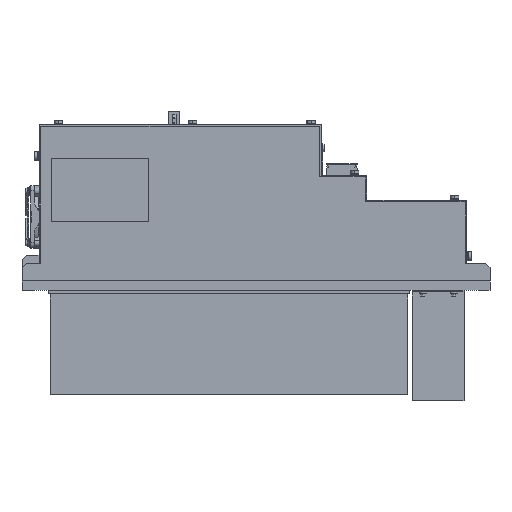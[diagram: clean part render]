
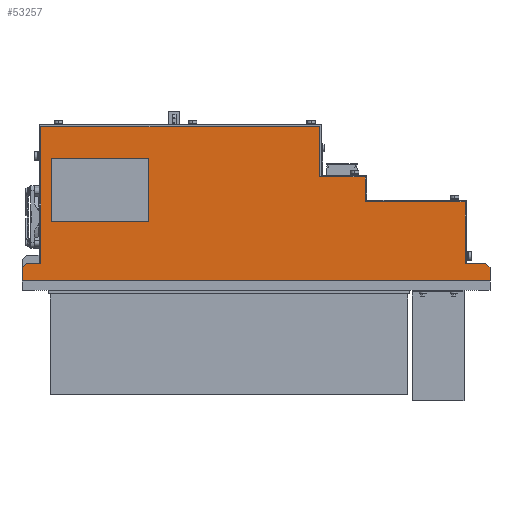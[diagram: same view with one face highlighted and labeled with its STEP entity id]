
A CAD part, left-side view. The second image highlights one B-rep face of the part: STEP entity #53257.
In plain terms, the highlighted planar face has unit normal (-1, 0, 0).
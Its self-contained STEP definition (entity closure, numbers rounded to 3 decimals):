
#18175 = CARTESIAN_POINT ( 'NONE',  ( -12.5, -418.5, 26. ) ) ;
#18176 = DIRECTION ( 'NONE',  ( 0., 1., 0. ) ) ;
#18177 = VECTOR ( 'NONE', #18176, 1000. ) ;
#18178 = CARTESIAN_POINT ( 'NONE',  ( -12.5, -442.5, 26. ) ) ;
#18179 = LINE ( 'NONE', #18178, #18177 ) ;
#18203 = LINE ( 'NONE', #18280, #18279 ) ;
#18204 = CARTESIAN_POINT ( 'NONE',  ( -12.5, 7.5, 9.2 ) ) ;
#18205 = DIRECTION ( 'NONE',  ( 0., 0., 1. ) ) ;
#18206 = VECTOR ( 'NONE', #18205, 1000. ) ;
#18207 = CARTESIAN_POINT ( 'NONE',  ( -12.5, 7.5, 9. ) ) ;
#18208 = LINE ( 'NONE', #18207, #18206 ) ;
#18210 = CARTESIAN_POINT ( 'NONE',  ( -12.5, 7.5, 22. ) ) ;
#18211 = DIRECTION ( 'NONE',  ( 0., 0.707, -0.707 ) ) ;
#18212 = VECTOR ( 'NONE', #18211, 1000. ) ;
#18213 = CARTESIAN_POINT ( 'NONE',  ( -12.5, 7.5, 22. ) ) ;
#18214 = LINE ( 'NONE', #18213, #18212 ) ;
#18216 = CARTESIAN_POINT ( 'NONE',  ( -12.5, 3.5, 26. ) ) ;
#18217 = DIRECTION ( 'NONE',  ( 0., -1., 0. ) ) ;
#18218 = VECTOR ( 'NONE', #18217, 1000. ) ;
#18219 = CARTESIAN_POINT ( 'NONE',  ( -12.5, 7.5, 26. ) ) ;
#18220 = LINE ( 'NONE', #18219, #18218 ) ;
#18221 = CARTESIAN_POINT ( 'NONE',  ( -12.5, -10.5, 26. ) ) ;
#18222 = DIRECTION ( 'NONE',  ( 0., 0., 1. ) ) ;
#18224 = VECTOR ( 'NONE', #18222, 1000. ) ;
#18226 = CARTESIAN_POINT ( 'NONE',  ( -12.5, -10.5, 157.4 ) ) ;
#18227 = LINE ( 'NONE', #18226, #18224 ) ;
#18228 = DIRECTION ( 'NONE',  ( 0., 1., 0. ) ) ;
#18229 = VECTOR ( 'NONE', #18228, 1000. ) ;
#18230 = CARTESIAN_POINT ( 'NONE',  ( -12.5, -420.1, 85. ) ) ;
#18231 = LINE ( 'NONE', #18230, #18229 ) ;
#18233 = CARTESIAN_POINT ( 'NONE',  ( -12.5, -418.5, 85. ) ) ;
#18234 = DIRECTION ( 'NONE',  ( 0., 0., 1. ) ) ;
#18235 = VECTOR ( 'NONE', #18234, 1000. ) ;
#18236 = CARTESIAN_POINT ( 'NONE',  ( -12.5, -418.5, 26. ) ) ;
#18237 = LINE ( 'NONE', #18236, #18235 ) ;
#18238 = CARTESIAN_POINT ( 'NONE',  ( -12.5, -10.5, 157.4 ) ) ;
#18241 = CARTESIAN_POINT ( 'NONE',  ( -12.5, -278.5, 157.4 ) ) ;
#18242 = DIRECTION ( 'NONE',  ( 0., -1., 0. ) ) ;
#18243 = VECTOR ( 'NONE', #18242, 1000. ) ;
#18244 = CARTESIAN_POINT ( 'NONE',  ( -12.5, -8.9, 157.4 ) ) ;
#18245 = LINE ( 'NONE', #18244, #18243 ) ;
#18246 = DIRECTION ( 'NONE',  ( 0., 0., -1. ) ) ;
#18247 = DIRECTION ( 'NONE',  ( 1., 0., 0. ) ) ;
#18248 = CARTESIAN_POINT ( 'NONE',  ( -12.5, -8.9, 629.503 ) ) ;
#18249 = AXIS2_PLACEMENT_3D ( 'NONE', #18248, #18247, #18246 ) ;
#18250 = PLANE ( 'NONE',  #18249 ) ;
#18252 = FACE_BOUND ( 'NONE', #53302, .T. ) ;
#18253 = FACE_OUTER_BOUND ( 'NONE', #53258, .T. ) ;
#18276 = CARTESIAN_POINT ( 'NONE',  ( -12.5, -442.5, 9.2 ) ) ;
#18278 = DIRECTION ( 'NONE',  ( 0., 1., 0. ) ) ;
#18279 = VECTOR ( 'NONE', #18278, 1000. ) ;
#18280 = CARTESIAN_POINT ( 'NONE',  ( -12.5, -442.5, 9.2 ) ) ;
#18281 = LINE ( 'NONE', #18347, #18346 ) ;
#18282 = CARTESIAN_POINT ( 'NONE',  ( -12.5, -114.4, 127. ) ) ;
#18285 = DIRECTION ( 'NONE',  ( 0., 1., 0. ) ) ;
#18286 = VECTOR ( 'NONE', #18285, 1000. ) ;
#18287 = CARTESIAN_POINT ( 'NONE',  ( -12.5, -20.4, 127. ) ) ;
#18289 = LINE ( 'NONE', #18287, #18286 ) ;
#18290 = CARTESIAN_POINT ( 'NONE',  ( -12.5, -20.4, 127. ) ) ;
#18315 = DIRECTION ( 'NONE',  ( 0., 0., 1. ) ) ;
#18316 = VECTOR ( 'NONE', #18315, 1000. ) ;
#18317 = CARTESIAN_POINT ( 'NONE',  ( -12.5, -278.5, 109. ) ) ;
#18318 = LINE ( 'NONE', #18317, #18316 ) ;
#18319 = CARTESIAN_POINT ( 'NONE',  ( -12.5, -278.5, 109. ) ) ;
#18320 = DIRECTION ( 'NONE',  ( 0., 1., 0. ) ) ;
#18321 = VECTOR ( 'NONE', #18320, 1000. ) ;
#18322 = CARTESIAN_POINT ( 'NONE',  ( -12.5, -322.5, 109. ) ) ;
#18323 = LINE ( 'NONE', #18322, #18321 ) ;
#18324 = CARTESIAN_POINT ( 'NONE',  ( -12.5, -322.5, 109. ) ) ;
#18325 = DIRECTION ( 'NONE',  ( 0., 0., 1. ) ) ;
#18326 = VECTOR ( 'NONE', #18325, 1000. ) ;
#18327 = CARTESIAN_POINT ( 'NONE',  ( -12.5, -322.5, 85. ) ) ;
#18328 = LINE ( 'NONE', #18327, #18326 ) ;
#18329 = CARTESIAN_POINT ( 'NONE',  ( -12.5, -322.5, 85. ) ) ;
#18345 = DIRECTION ( 'NONE',  ( 0., 0., 1. ) ) ;
#18346 = VECTOR ( 'NONE', #18345, 1000. ) ;
#18347 = CARTESIAN_POINT ( 'NONE',  ( -12.5, -114.4, 66. ) ) ;
#18359 = CARTESIAN_POINT ( 'NONE',  ( -12.5, -438.5, 26. ) ) ;
#18360 = DIRECTION ( 'NONE',  ( 0., 0.707, 0.707 ) ) ;
#18361 = VECTOR ( 'NONE', #18360, 1000. ) ;
#18362 = CARTESIAN_POINT ( 'NONE',  ( -12.5, -442.5, 22. ) ) ;
#18363 = LINE ( 'NONE', #18362, #18361 ) ;
#18364 = CARTESIAN_POINT ( 'NONE',  ( -12.5, -442.5, 22. ) ) ;
#18365 = DIRECTION ( 'NONE',  ( 0., 0., -1. ) ) ;
#18366 = VECTOR ( 'NONE', #18365, 1000. ) ;
#18367 = CARTESIAN_POINT ( 'NONE',  ( -12.5, -442.5, 9. ) ) ;
#18368 = LINE ( 'NONE', #18367, #18366 ) ;
#18369 = DIRECTION ( 'NONE',  ( 0., 0., -1. ) ) ;
#18370 = VECTOR ( 'NONE', #18369, 1000. ) ;
#18371 = CARTESIAN_POINT ( 'NONE',  ( -12.5, -20.4, 66. ) ) ;
#18372 = LINE ( 'NONE', #18371, #18370 ) ;
#18374 = CARTESIAN_POINT ( 'NONE',  ( -12.5, -114.4, 66. ) ) ;
#18375 = CARTESIAN_POINT ( 'NONE',  ( -12.5, -20.4, 66. ) ) ;
#18376 = DIRECTION ( 'NONE',  ( 0., -1., 0. ) ) ;
#18377 = VECTOR ( 'NONE', #18376, 1000. ) ;
#18378 = CARTESIAN_POINT ( 'NONE',  ( -12.5, -20.4, 66. ) ) ;
#18379 = LINE ( 'NONE', #18378, #18377 ) ;
#53224 = ORIENTED_EDGE ( 'NONE', *, *, #53225, .T. ) ;
#53225 = EDGE_CURVE ( 'NONE', #53316, #53226, #18179, .T. ) ;
#53226 = VERTEX_POINT ( 'NONE', #18175 ) ;
#53227 = ORIENTED_EDGE ( 'NONE', *, *, #53229, .T. ) ;
#53229 = EDGE_CURVE ( 'NONE', #53226, #53230, #18237, .T. ) ;
#53230 = VERTEX_POINT ( 'NONE', #18233 ) ;
#53231 = ORIENTED_EDGE ( 'NONE', *, *, #53233, .T. ) ;
#53233 = EDGE_CURVE ( 'NONE', #53230, #53293, #18231, .T. ) ;
#53234 = ORIENTED_EDGE ( 'NONE', *, *, #53235, .F. ) ;
#53235 = EDGE_CURVE ( 'NONE', #53236, #53261, #18227, .T. ) ;
#53236 = VERTEX_POINT ( 'NONE', #18221 ) ;
#53237 = ORIENTED_EDGE ( 'NONE', *, *, #53238, .F. ) ;
#53238 = EDGE_CURVE ( 'NONE', #53239, #53236, #18220, .T. ) ;
#53239 = VERTEX_POINT ( 'NONE', #18216 ) ;
#53240 = ORIENTED_EDGE ( 'NONE', *, *, #53241, .T. ) ;
#53241 = EDGE_CURVE ( 'NONE', #53239, #53242, #18214, .T. ) ;
#53242 = VERTEX_POINT ( 'NONE', #18210 ) ;
#53243 = ORIENTED_EDGE ( 'NONE', *, *, #53244, .F. ) ;
#53244 = EDGE_CURVE ( 'NONE', #53245, #53242, #18208, .T. ) ;
#53245 = VERTEX_POINT ( 'NONE', #18204 ) ;
#53246 = ORIENTED_EDGE ( 'NONE', *, *, #53247, .F. ) ;
#53247 = EDGE_CURVE ( 'NONE', #53249, #53245, #18203, .T. ) ;
#53249 = VERTEX_POINT ( 'NONE', #18276 ) ;
#53257 = ADVANCED_FACE ( 'NONE', ( #18253, #18252 ), #18250, .F. ) ;
#53258 = EDGE_LOOP ( 'NONE', ( #53259, #53234, #53237, #53240, #53243, #53246, #53311, #53314, #53224, #53227, #53231, #53294, #53297, #53300 ) ) ;
#53259 = ORIENTED_EDGE ( 'NONE', *, *, #53260, .F. ) ;
#53260 = EDGE_CURVE ( 'NONE', #53261, #53262, #18245, .T. ) ;
#53261 = VERTEX_POINT ( 'NONE', #18238 ) ;
#53262 = VERTEX_POINT ( 'NONE', #18241 ) ;
#53278 = VERTEX_POINT ( 'NONE', #18290 ) ;
#53280 = ORIENTED_EDGE ( 'NONE', *, *, #53281, .F. ) ;
#53281 = EDGE_CURVE ( 'NONE', #53282, #53278, #18289, .T. ) ;
#53282 = VERTEX_POINT ( 'NONE', #18282 ) ;
#53283 = ORIENTED_EDGE ( 'NONE', *, *, #53284, .F. ) ;
#53284 = EDGE_CURVE ( 'NONE', #53306, #53282, #18281, .T. ) ;
#53293 = VERTEX_POINT ( 'NONE', #18329 ) ;
#53294 = ORIENTED_EDGE ( 'NONE', *, *, #53295, .T. ) ;
#53295 = EDGE_CURVE ( 'NONE', #53293, #53296, #18328, .T. ) ;
#53296 = VERTEX_POINT ( 'NONE', #18324 ) ;
#53297 = ORIENTED_EDGE ( 'NONE', *, *, #53298, .T. ) ;
#53298 = EDGE_CURVE ( 'NONE', #53296, #53299, #18323, .T. ) ;
#53299 = VERTEX_POINT ( 'NONE', #18319 ) ;
#53300 = ORIENTED_EDGE ( 'NONE', *, *, #53301, .T. ) ;
#53301 = EDGE_CURVE ( 'NONE', #53299, #53262, #18318, .T. ) ;
#53302 = EDGE_LOOP ( 'NONE', ( #53303, #53307, #53280, #53283 ) ) ;
#53303 = ORIENTED_EDGE ( 'NONE', *, *, #53304, .F. ) ;
#53304 = EDGE_CURVE ( 'NONE', #53305, #53306, #18379, .T. ) ;
#53305 = VERTEX_POINT ( 'NONE', #18375 ) ;
#53306 = VERTEX_POINT ( 'NONE', #18374 ) ;
#53307 = ORIENTED_EDGE ( 'NONE', *, *, #53309, .F. ) ;
#53309 = EDGE_CURVE ( 'NONE', #53278, #53305, #18372, .T. ) ;
#53311 = ORIENTED_EDGE ( 'NONE', *, *, #53312, .F. ) ;
#53312 = EDGE_CURVE ( 'NONE', #53313, #53249, #18368, .T. ) ;
#53313 = VERTEX_POINT ( 'NONE', #18364 ) ;
#53314 = ORIENTED_EDGE ( 'NONE', *, *, #53315, .T. ) ;
#53315 = EDGE_CURVE ( 'NONE', #53313, #53316, #18363, .T. ) ;
#53316 = VERTEX_POINT ( 'NONE', #18359 ) ;
